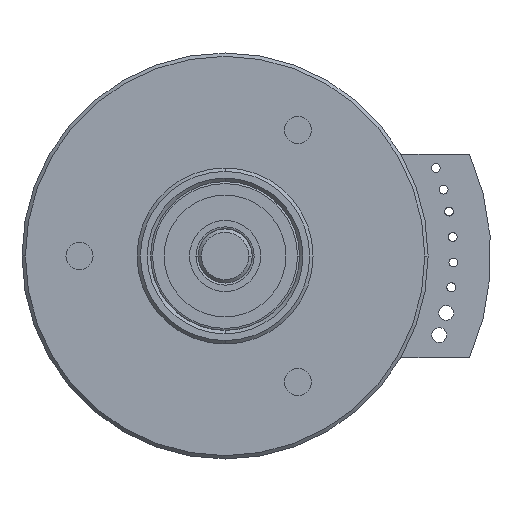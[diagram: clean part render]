
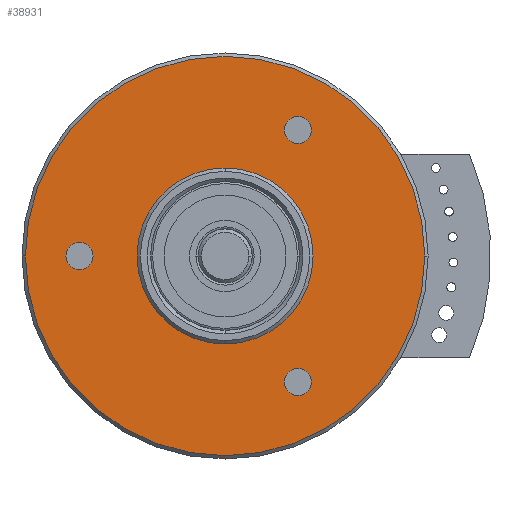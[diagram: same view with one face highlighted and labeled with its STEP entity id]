
A CAD part, front view. The second image highlights one B-rep face of the part: STEP entity #38931.
In plain terms, the highlighted planar face has unit normal (0, -1, 0).
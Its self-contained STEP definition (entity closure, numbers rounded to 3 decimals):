
#1189=CARTESIAN_POINT('',(0.,-0.3,0.));
#1190=DIRECTION('',(0.,-1.,0.));
#1191=DIRECTION('',(-1.,0.,0.));
#1192=AXIS2_PLACEMENT_3D('',#1189,#1190,#1191);
#1194=CARTESIAN_POINT('',(0.,-0.3,0.));
#1195=DIRECTION('',(0.,-1.,0.));
#1196=DIRECTION('',(1.,0.,0.));
#1197=AXIS2_PLACEMENT_3D('',#1194,#1195,#1196);
#1199=CARTESIAN_POINT('',(10.75,-0.3,18.62));
#1200=DIRECTION('',(0.,-1.,0.));
#1201=DIRECTION('',(0.,0.,1.));
#1202=AXIS2_PLACEMENT_3D('',#1199,#1200,#1201);
#1204=CARTESIAN_POINT('',(10.75,-0.3,18.62));
#1205=DIRECTION('',(0.,-1.,0.));
#1206=DIRECTION('',(0.,0.,-1.));
#1207=AXIS2_PLACEMENT_3D('',#1204,#1205,#1206);
#1209=CARTESIAN_POINT('',(10.75,-0.3,-18.62));
#1210=DIRECTION('',(0.,-1.,0.));
#1211=DIRECTION('',(0.,0.,1.));
#1212=AXIS2_PLACEMENT_3D('',#1209,#1210,#1211);
#1214=CARTESIAN_POINT('',(10.75,-0.3,-18.62));
#1215=DIRECTION('',(0.,-1.,0.));
#1216=DIRECTION('',(0.,0.,-1.));
#1217=AXIS2_PLACEMENT_3D('',#1214,#1215,#1216);
#1219=CARTESIAN_POINT('',(-21.5,-0.3,0.));
#1220=DIRECTION('',(0.,-1.,0.));
#1221=DIRECTION('',(0.,0.,1.));
#1222=AXIS2_PLACEMENT_3D('',#1219,#1220,#1221);
#1224=CARTESIAN_POINT('',(-21.5,-0.3,0.));
#1225=DIRECTION('',(0.,-1.,0.));
#1226=DIRECTION('',(0.,0.,-1.));
#1227=AXIS2_PLACEMENT_3D('',#1224,#1225,#1226);
#1248=CARTESIAN_POINT('',(0.,-0.3,0.));
#1249=DIRECTION('',(0.,-1.,0.));
#1250=DIRECTION('',(0.,0.,-1.));
#1251=AXIS2_PLACEMENT_3D('',#1248,#1249,#1250);
#1290=CARTESIAN_POINT('',(0.,-0.3,0.));
#1291=DIRECTION('',(0.,-1.,0.));
#1292=DIRECTION('',(0.,0.,1.));
#1293=AXIS2_PLACEMENT_3D('',#1290,#1291,#1292);
#28493=CARTESIAN_POINT('',(0.,-0.3,-13.));
#28494=CARTESIAN_POINT('',(0.,-0.3,13.));
#28495=VERTEX_POINT('',#28493);
#28496=VERTEX_POINT('',#28494);
#28497=CARTESIAN_POINT('',(10.75,-0.3,20.62));
#28498=CARTESIAN_POINT('',(10.75,-0.3,16.62));
#28499=VERTEX_POINT('',#28497);
#28500=VERTEX_POINT('',#28498);
#28501=CARTESIAN_POINT('',(10.75,-0.3,-16.62));
#28502=CARTESIAN_POINT('',(10.75,-0.3,-20.62));
#28503=VERTEX_POINT('',#28501);
#28504=VERTEX_POINT('',#28502);
#28505=CARTESIAN_POINT('',(-21.5,-0.3,2.));
#28506=CARTESIAN_POINT('',(-21.5,-0.3,-2.));
#28507=VERTEX_POINT('',#28505);
#28508=VERTEX_POINT('',#28506);
#28525=CARTESIAN_POINT('',(-29.5,-0.3,0.));
#28526=CARTESIAN_POINT('',(29.5,-0.3,0.));
#28527=VERTEX_POINT('',#28525);
#28528=VERTEX_POINT('',#28526);
#38897=CARTESIAN_POINT('',(0.,-0.3,0.));
#38898=DIRECTION('',(0.,-1.,0.));
#38899=DIRECTION('',(0.,0.,-1.));
#38900=AXIS2_PLACEMENT_3D('',#38897,#38898,#38899);
#38901=PLANE('',#38900);
#38902=ORIENTED_EDGE('',*,*,#38887,.F.);
#38904=ORIENTED_EDGE('',*,*,#38903,.F.);
#38905=EDGE_LOOP('',(#38902,#38904));
#38906=FACE_OUTER_BOUND('',#38905,.F.);
#38908=ORIENTED_EDGE('',*,*,#38907,.T.);
#38910=ORIENTED_EDGE('',*,*,#38909,.T.);
#38911=EDGE_LOOP('',(#38908,#38910));
#38912=FACE_BOUND('',#38911,.F.);
#38914=ORIENTED_EDGE('',*,*,#38913,.T.);
#38916=ORIENTED_EDGE('',*,*,#38915,.T.);
#38917=EDGE_LOOP('',(#38914,#38916));
#38918=FACE_BOUND('',#38917,.F.);
#38920=ORIENTED_EDGE('',*,*,#38919,.T.);
#38922=ORIENTED_EDGE('',*,*,#38921,.T.);
#38923=EDGE_LOOP('',(#38920,#38922));
#38924=FACE_BOUND('',#38923,.F.);
#38926=ORIENTED_EDGE('',*,*,#38925,.T.);
#38928=ORIENTED_EDGE('',*,*,#38927,.T.);
#38929=EDGE_LOOP('',(#38926,#38928));
#38930=FACE_BOUND('',#38929,.F.);
#38931=ADVANCED_FACE('',(#38906,#38912,#38918,#38924,#38930),#38901,.T.);
#1193=CIRCLE('',#1192,29.5);
#1198=CIRCLE('',#1197,29.5);
#1203=CIRCLE('',#1202,2.);
#1208=CIRCLE('',#1207,2.);
#1213=CIRCLE('',#1212,2.);
#1218=CIRCLE('',#1217,2.);
#1223=CIRCLE('',#1222,2.);
#1228=CIRCLE('',#1227,2.);
#1252=CIRCLE('',#1251,13.);
#1294=CIRCLE('',#1293,13.);
#38887=EDGE_CURVE('',#28527,#28528,#1193,.T.);
#38903=EDGE_CURVE('',#28528,#28527,#1198,.T.);
#38907=EDGE_CURVE('',#28495,#28496,#1252,.T.);
#38909=EDGE_CURVE('',#28496,#28495,#1294,.T.);
#38913=EDGE_CURVE('',#28499,#28500,#1203,.T.);
#38915=EDGE_CURVE('',#28500,#28499,#1208,.T.);
#38919=EDGE_CURVE('',#28503,#28504,#1213,.T.);
#38921=EDGE_CURVE('',#28504,#28503,#1218,.T.);
#38925=EDGE_CURVE('',#28507,#28508,#1223,.T.);
#38927=EDGE_CURVE('',#28508,#28507,#1228,.T.);
